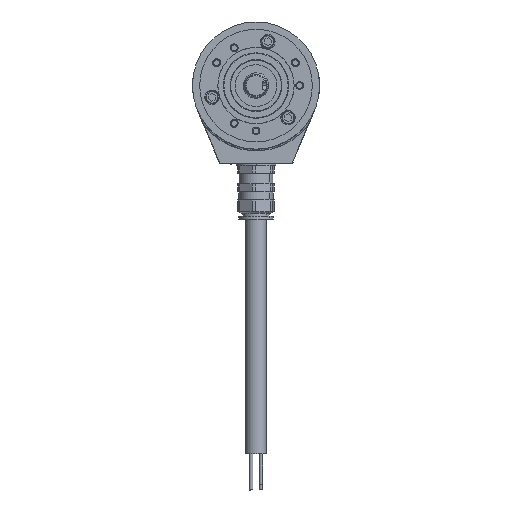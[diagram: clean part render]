
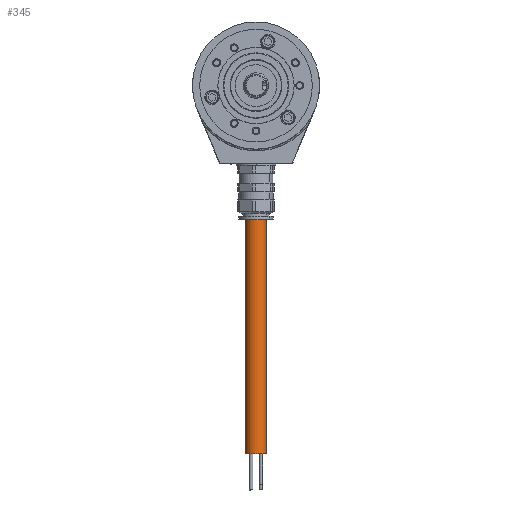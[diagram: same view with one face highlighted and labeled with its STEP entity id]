
A CAD part, left-side view. The second image highlights one B-rep face of the part: STEP entity #345.
In plain terms, the highlighted cylindrical face has radius 5.75 mm (diameter 11.5 mm), a partial arc.
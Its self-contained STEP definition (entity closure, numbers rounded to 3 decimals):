
#345 = ADVANCED_FACE ( 'NONE', ( #4260 ), #4353, .T. ) ;
#346 = EDGE_LOOP ( 'NONE', ( #347, #351, #354, #357 ) ) ;
#347 = ORIENTED_EDGE ( 'NONE', *, *, #348, .T. ) ;
#348 = EDGE_CURVE ( 'NONE', #349, #350, #4352, .T. ) ;
#349 = VERTEX_POINT ( 'NONE', #4343 ) ;
#350 = VERTEX_POINT ( 'NONE', #4342 ) ;
#351 = ORIENTED_EDGE ( 'NONE', *, *, #353, .T. ) ;
#352 = VERTEX_POINT ( 'NONE', #4341 ) ;
#353 = EDGE_CURVE ( 'NONE', #350, #352, #4340, .T. ) ;
#354 = ORIENTED_EDGE ( 'NONE', *, *, #355, .F. ) ;
#355 = EDGE_CURVE ( 'NONE', #356, #352, #4336, .T. ) ;
#356 = VERTEX_POINT ( 'NONE', #4331 ) ;
#357 = ORIENTED_EDGE ( 'NONE', *, *, #358, .F. ) ;
#358 = EDGE_CURVE ( 'NONE', #349, #356, #4382, .T. ) ;
#4260 = FACE_OUTER_BOUND ( 'NONE', #346, .T. ) ;
#4331 = CARTESIAN_POINT ( 'NONE',  ( 81.296, -82.496, 200.491 ) ) ;
#4332 = DIRECTION ( 'NONE',  ( 0.104, 0.995, 0. ) ) ;
#4333 = DIRECTION ( 'NONE',  ( 0., 0., 1. ) ) ;
#4334 = CARTESIAN_POINT ( 'NONE',  ( 80.7, -88.215, 200.491 ) ) ;
#4335 = AXIS2_PLACEMENT_3D ( 'NONE', #4334, #4333, #4332 ) ;
#4336 = CIRCLE ( 'NONE', #4335, 5.75 ) ;
#4337 = DIRECTION ( 'NONE',  ( 0., 0., 1. ) ) ;
#4338 = VECTOR ( 'NONE', #4337, 1000. ) ;
#4339 = CARTESIAN_POINT ( 'NONE',  ( 80.104, -93.934, 65.491 ) ) ;
#4340 = LINE ( 'NONE', #4339, #4338 ) ;
#4341 = CARTESIAN_POINT ( 'NONE',  ( 80.104, -93.934, 200.491 ) ) ;
#4342 = CARTESIAN_POINT ( 'NONE',  ( 80.104, -93.934, 65.491 ) ) ;
#4343 = CARTESIAN_POINT ( 'NONE',  ( 81.296, -82.496, 65.491 ) ) ;
#4344 = DIRECTION ( 'NONE',  ( 0.104, 0.995, 0. ) ) ;
#4345 = DIRECTION ( 'NONE',  ( 0., 0., 1. ) ) ;
#4346 = CARTESIAN_POINT ( 'NONE',  ( 80.7, -88.215, 65.491 ) ) ;
#4347 = AXIS2_PLACEMENT_3D ( 'NONE', #4346, #4345, #4344 ) ;
#4348 = DIRECTION ( 'NONE',  ( 0.104, 0.995, 0. ) ) ;
#4349 = DIRECTION ( 'NONE',  ( 0., 0., 1. ) ) ;
#4350 = CARTESIAN_POINT ( 'NONE',  ( 80.7, -88.215, 65.491 ) ) ;
#4351 = AXIS2_PLACEMENT_3D ( 'NONE', #4350, #4349, #4348 ) ;
#4352 = CIRCLE ( 'NONE', #4347, 5.75 ) ;
#4353 = CYLINDRICAL_SURFACE ( 'NONE', #4351, 5.75 ) ;
#4379 = DIRECTION ( 'NONE',  ( 0., 0., 1. ) ) ;
#4380 = VECTOR ( 'NONE', #4379, 1000. ) ;
#4381 = CARTESIAN_POINT ( 'NONE',  ( 81.296, -82.496, 65.491 ) ) ;
#4382 = LINE ( 'NONE', #4381, #4380 ) ;
